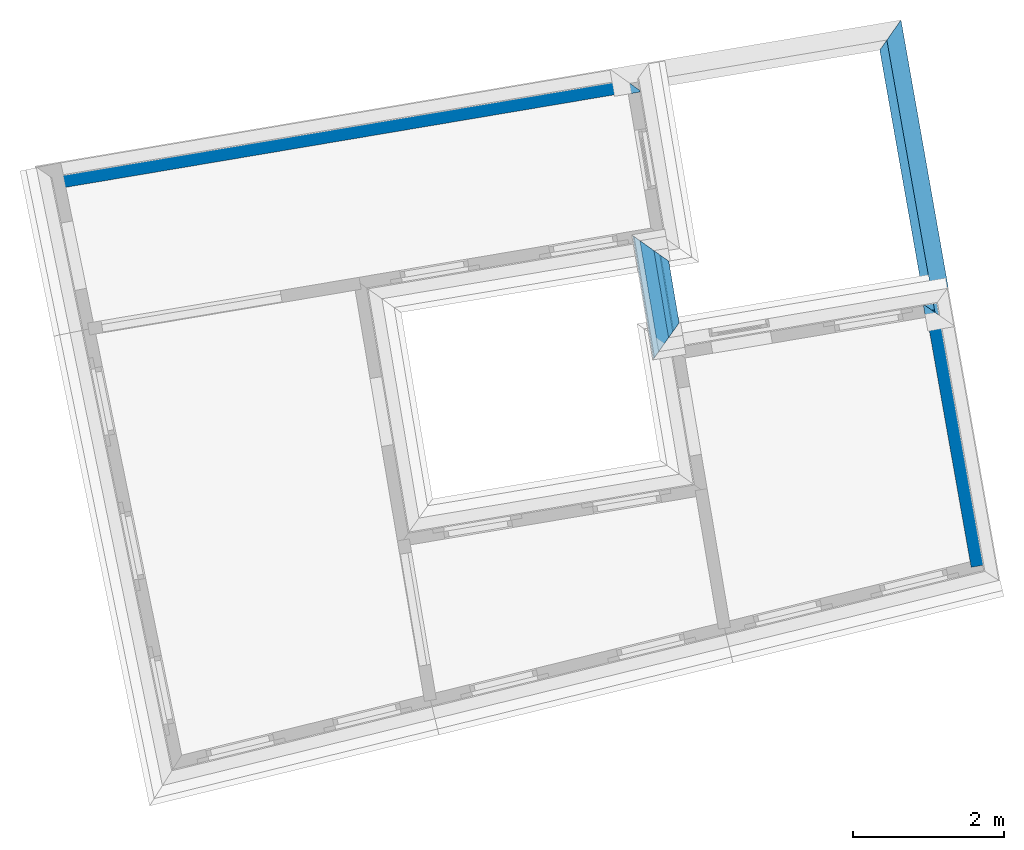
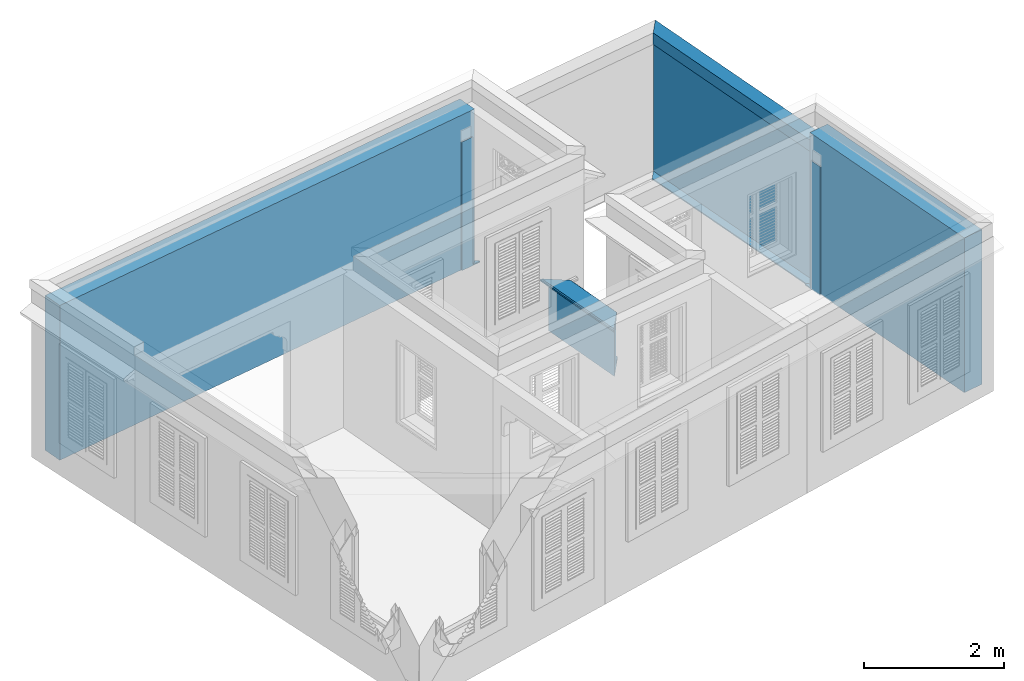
# One storey, part 8 of 12: 8 walls.
"""IFC4 building model written with IfcOpenShell, lengths in metres."""

import ifcopenshell
import ifcopenshell.guid

model = None  # the IFC model being written
_history = None  # IfcOwnerHistory: only IFC2X3 demands one
_inside = {}  # id of a spatial element -> (the spatial element, [elements in it])
_under = {}  # id of a project, library or spatial element -> (it, [spatial elements below it])
_declared = {}  # id of a project -> (the project, [libraries it declares])
_typed = {}  # id of a type object -> (the type object, [elements of that type])
_made_of = {}  # id of a material, layer set ... -> (it, [elements and type objects made of it])


def new_model(schema):
    """Start an empty IFC model of exactly this schema.

    Asked for "IFC4X3", IfcOpenShell would pick the latest addendum, in which some entities
    have other attributes; the version numbers below select the first issue.
    IFC2X3 requires an IfcOwnerHistory on every rooted entity: one is made here for all.
    """
    global model, _history
    if schema == "IFC4X3":
        model = ifcopenshell.file(schema_version=(4, 3, 0, 0))
    else:
        model = ifcopenshell.file(schema=schema)
    _inside.clear()
    _under.clear()
    _declared.clear()
    _typed.clear()
    _made_of.clear()
    _history = None
    if model.schema == "IFC2X3":
        org = make("IfcOrganization", Name="unknown")
        user = make(
            "IfcPersonAndOrganization",
            ThePerson=make("IfcPerson", FamilyName="unknown"),
            TheOrganization=org,
        )
        app = make(
            "IfcApplication",
            ApplicationDeveloper=org,
            Version="unknown",
            ApplicationFullName="unknown",
            ApplicationIdentifier="unknown",
        )
        _history = make(
            "IfcOwnerHistory",
            OwningUser=user,
            OwningApplication=app,
            ChangeAction="ADDED",
            CreationDate=0,
        )
    return model


def make(cls, **values):
    """One entity of the class cls with the attributes given. An attribute that is None is left unset."""
    return model.create_entity(
        cls, **{name: value for name, value in values.items() if value is not None}
    )


def rooted(cls, **values):
    """An entity with a GlobalId (a new one), such as an element, a storey or a relation."""
    return make(cls, GlobalId=ifcopenshell.guid.new(), OwnerHistory=_history, **values)


def si_unit(unit_type, name, prefix=None):
    """IfcSIUnit, for example si_unit("LENGTHUNIT", "METRE", prefix="MILLI")."""
    return make("IfcSIUnit", UnitType=unit_type, Prefix=prefix, Name=name)


def assignment(units):
    """IfcUnitAssignment: the units of a project."""
    return None if units is None else make("IfcUnitAssignment", Units=units)


def point(xyz):
    """IfcCartesianPoint."""
    return None if xyz is None else make("IfcCartesianPoint", Coordinates=xyz)


def direction(xyz):
    """IfcDirection."""
    return None if xyz is None else make("IfcDirection", DirectionRatios=xyz)


def frame(location, z_axis=None, x_axis=None):
    """IfcAxis2Placement3D, a coordinate frame: its origin and axes. An axis left out is left unset."""
    return make(
        "IfcAxis2Placement3D",
        Location=point(location),
        Axis=direction(z_axis),
        RefDirection=direction(x_axis),
    )


def origin_with_axes():
    """The frame at (0, 0, 0) with the z axis (0, 0, 1) and the x axis (1, 0, 0) written out."""
    return frame((0.0, 0.0, 0.0), z_axis=(0.0, 0.0, 1.0), x_axis=(1.0, 0.0, 0.0))


def place(relative_to, where):
    """IfcLocalPlacement: puts the frame where relative to a parent placement (None: the world)."""
    return make(
        "IfcLocalPlacement", PlacementRelTo=relative_to, RelativePlacement=where
    )


def context(
    kind, dimensions, precision=None, world=None, true_north=None, identifier=None
):
    """IfcGeometricRepresentationContext, for example the 3D "Model" context."""
    return make(
        "IfcGeometricRepresentationContext",
        ContextIdentifier=identifier,
        ContextType=kind,
        CoordinateSpaceDimension=dimensions,
        Precision=precision,
        WorldCoordinateSystem=world,
        TrueNorth=true_north,
    )


def subcontext(parent, identifier, kind, view, scale=None):
    """IfcGeometricRepresentationSubContext, for example "Body" below "Model"."""
    return make(
        "IfcGeometricRepresentationSubContext",
        ContextIdentifier=identifier,
        ContextType=kind,
        ParentContext=parent,
        TargetScale=scale,
        TargetView=view,
    )


def project(units=None, contexts=None):
    """IfcProject with its units and contexts."""
    return rooted(
        "IfcProject",
        Name="project",
        RepresentationContexts=contexts,
        UnitsInContext=assignment(units),
    )


def spatial(cls, under=None, at=None, **own):
    """A site, building, storey or space (cls), placed at a placement, below another one or the project."""
    s = rooted(cls, ObjectPlacement=at, **own)
    if under is not None:
        _under.setdefault(under.id(), (under, []))[1].append(s)
    return s


def polyline(points):
    """IfcPolyline through the points."""
    return make("IfcPolyline", Points=[point(p) for p in points])


def outline(outer, holes=None, kind="AREA"):
    """IfcArbitraryClosedProfileDef: a profile drawn as a closed curve; with holes, ...WithVoids."""
    if holes is None:
        return make("IfcArbitraryClosedProfileDef", ProfileType=kind, OuterCurve=outer)
    return make(
        "IfcArbitraryProfileDefWithVoids",
        ProfileType=kind,
        OuterCurve=outer,
        InnerCurves=holes,
    )


def extrude(swept, where, along, depth):
    """IfcExtrudedAreaSolid: the profile swept, set in the frame where, extruded along a direction by depth."""
    return make(
        "IfcExtrudedAreaSolid",
        SweptArea=swept,
        Position=where,
        ExtrudedDirection=direction(along),
        Depth=depth,
    )


def clip(a, b, op="DIFFERENCE"):
    """IfcBooleanClippingResult: the solid a cut by the half space b."""
    return make(
        "IfcBooleanClippingResult", Operator=op, FirstOperand=a, SecondOperand=b
    )


def halfspace(plane, agree):
    """IfcHalfSpaceSolid: all space on one side of the plane z = 0 of the frame plane."""
    return make(
        "IfcHalfSpaceSolid",
        BaseSurface=make("IfcPlane", Position=plane),
        AgreementFlag=agree,
    )


def shape(context_of_items, identifier, shape_type, items):
    """IfcShapeRepresentation: the items that make up one representation, for example the "Body"."""
    return make(
        "IfcShapeRepresentation",
        ContextOfItems=context_of_items,
        RepresentationIdentifier=identifier,
        RepresentationType=shape_type,
        Items=items,
    )


def material(Name=None, Category=None):
    """IfcMaterial."""
    return make("IfcMaterial", Name=Name, Category=Category)


def layer(
    of_material, thickness, ventilated=None, Name=None, Category=None, Priority=None
):
    """IfcMaterialLayer: one layer of a wall or slab, of a material (None: an air gap)."""
    return make(
        "IfcMaterialLayer",
        Material=of_material,
        LayerThickness=thickness,
        IsVentilated=ventilated,
        Name=Name,
        Category=Category,
        Priority=Priority,
    )


def layer_set(layers, Name=None):
    """IfcMaterialLayerSet."""
    return make("IfcMaterialLayerSet", MaterialLayers=layers, LayerSetName=Name)


def layer_usage(for_layer_set, set_direction, sense, offset, extent=None):
    """IfcMaterialLayerSetUsage: how a layer set lies in its element."""
    return make(
        "IfcMaterialLayerSetUsage",
        ForLayerSet=for_layer_set,
        LayerSetDirection=set_direction,
        DirectionSense=sense,
        OffsetFromReferenceLine=offset,
        ReferenceExtent=extent,
    )


def material_profile(
    of_material, cross_section, Name=None, Category=None, Priority=None
):
    """IfcMaterialProfile: a cross section and its material."""
    return make(
        "IfcMaterialProfile",
        Name=Name,
        Material=of_material,
        Profile=cross_section,
        Priority=Priority,
        Category=Category,
    )


def profile_set(profiles, Name=None, composite=None):
    """IfcMaterialProfileSet."""
    return make(
        "IfcMaterialProfileSet",
        Name=Name,
        MaterialProfiles=profiles,
        CompositeProfile=composite,
    )


def profile_usage(for_profile_set, cardinal=None, extent=None):
    """IfcMaterialProfileSetUsage: how a profile set lies along its element."""
    return make(
        "IfcMaterialProfileSetUsage",
        ForProfileSet=for_profile_set,
        CardinalPoint=cardinal,
        ReferenceExtent=extent,
    )


def made_of(thing, what):
    """Note that an element or type object is made of a material, layer set ...; save() writes the relation."""
    if what is not None:
        _made_of.setdefault(what.id(), (what, []))[1].append(thing)
    return thing


def type_object(cls, material=None, **own):
    """A type object (cls), such as IfcWallType, which elements share."""
    return made_of(rooted(cls, **own), material)


def element(
    cls,
    number,
    at=None,
    inside=None,
    cuts=None,
    type_object=None,
    material=None,
    context=None,
    identifier="Body",
    shape_type=None,
    held_by="IfcProductDefinitionShape",
    body=None,
    shapes=None,
    **own,
):
    """One element of the class cls, such as IfcWall. Its Tag is "e" and its number.

    at: its placement. inside: the storey or other place that contains it. cuts: it is an
    opening in that element (IfcRelVoidsElement). A single representation is given by context,
    identifier, shape_type and body (its items); several are given by shapes. held_by: the class
    of the entity that holds the representations. save() writes the other relations.
    """
    e = rooted(cls, Tag="e%d" % number, ObjectPlacement=at, **own)
    if body is not None:
        shapes = [shape(context, identifier, shape_type, body)]
    if shapes is not None:
        e.Representation = make(held_by, Representations=shapes)
    if inside is not None:
        _inside.setdefault(inside.id(), (inside, []))[1].append(e)
    if cuts is not None:
        rooted(
            "IfcRelVoidsElement", RelatingBuildingElement=cuts, RelatedOpeningElement=e
        )
    if type_object is not None:
        _typed.setdefault(type_object.id(), (type_object, []))[1].append(e)
    return made_of(e, material)


def aggregate(whole, parts):
    """IfcRelAggregates: a whole, such as a stair, and the parts it consists of."""
    return rooted("IfcRelAggregates", RelatingObject=whole, RelatedObjects=parts)


def save(model, path):
    """Write the relations noted so far, then the file.

    IfcRelAggregates (storeys below a building ...), IfcRelContainedInSpatialStructure (elements
    in a storey), IfcRelDefinesByType, IfcRelAssociatesMaterial and IfcRelDeclares: one each for
    every whole, place, type object, material and project.
    """
    for whole, parts in _under.values():
        aggregate(whole, parts)
    for where, things in _inside.values():
        rooted(
            "IfcRelContainedInSpatialStructure",
            RelatedElements=things,
            RelatingStructure=where,
        )
    for kind, things in _typed.values():
        rooted("IfcRelDefinesByType", RelatedObjects=things, RelatingType=kind)
    for what, things in _made_of.values():
        rooted("IfcRelAssociatesMaterial", RelatedObjects=things, RelatingMaterial=what)
    for by, libraries in _declared.values():
        rooted("IfcRelDeclares", RelatingContext=by, RelatedDefinitions=libraries)
    model.write(path)


model = new_model("IFC4")

# Units and contexts
model_context = context("Model", 3, world=origin_with_axes())
body_context = subcontext(model_context, "Body", "Model", "MODEL_VIEW")
ifc_project = project(units=[si_unit("PLANEANGLEUNIT", "RADIAN"), si_unit("MASSUNIT", "GRAM", prefix="KILO"), si_unit("FORCEUNIT", "NEWTON", prefix="KILO"), si_unit("LENGTHUNIT", "METRE"), si_unit("AREAUNIT", "SQUARE_METRE"), si_unit("VOLUMEUNIT", "CUBIC_METRE")], contexts=[model_context, model_context])

# Site, building, storey
site_placement = place(None, origin_with_axes())
site = spatial("IfcSite", under=ifc_project, at=site_placement, Name="Site plot-6", CompositionType="ELEMENT")
building_placement = place(None, origin_with_axes())
building = spatial("IfcBuilding", under=site, at=building_placement, Name="Building plot-6", CompositionType="ELEMENT")
storey_placement = place(None, frame((0.0, 0.0, 3.6), z_axis=(0.0, 0.0, 1.0), x_axis=(1.0, 0.0, 0.0)))
storey = spatial("IfcBuildingStorey", under=building, at=storey_placement, Name="plot-6 1", CompositionType="ELEMENT", Elevation=3.6)

# Walls
ifc_material = material(Name="Masonry")
ifc_layer = layer(ifc_material, 0.33, ventilated=False)
ifc_layer_set = layer_set([ifc_layer], Name="party_0.08_0.25")
ifc_layer_usage = layer_usage(ifc_layer_set, "AXIS2", "POSITIVE", -0.25)
wall_type_1 = type_object("IfcWallType", Name="party_0.08_0.25", PredefinedType="SOLIDWALL", material=ifc_layer_set)
wall_1_placement = place(storey_placement, frame((1.2030756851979, -1.07296405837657, 0.0), z_axis=(0.0, 0.0, 1.0), x_axis=(-0.174013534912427, 0.984743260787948, 0.0)))
element("IfcWall", 1, at=wall_1_placement, inside=storey, type_object=wall_type_1, material=ifc_layer_usage, Name="party", context=body_context, shape_type="SweptSolid", body=[
    extrude(outline(polyline([(7.59528607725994e-17, 0.08), (-4.02030662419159e-17, -0.25), (3.43461120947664, -0.25), (3.43461120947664, 0.0799999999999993), (7.59528607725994e-17, 0.08)])), origin_with_axes(), (0.0, 0.0, 1.0), 2.7),
])
wall_2_placement = place(storey_placement, frame((-3.34242450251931, 5.27660263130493, 0.0), z_axis=(0.0, 0.0, 1.0), x_axis=(-0.986076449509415, -0.166292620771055, 0.0)))
element("IfcWall", 2, at=wall_2_placement, inside=storey, type_object=wall_type_1, material=ifc_layer_usage, Name="party", context=body_context, shape_type="SweptSolid", body=[
    extrude(outline(polyline([(5.63585119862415e-17, 0.0799999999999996), (1.53080849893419e-17, -0.25), (7.69267766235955, -0.249999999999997), (7.69267766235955, 0.0800000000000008), (5.63585119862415e-17, 0.0799999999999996)])), origin_with_axes(), (0.0, 0.0, 1.0), 2.7),
])
ifc_material_profile_1 = material_profile(None, outline(polyline([(0.25, 0.0), (0.25, 2.245), (0.05, 2.245), (0.05, 0.02), (-0.08, 0.02), (-0.08, 0.0), (0.25, 0.0)])))
ifc_profile_set_1 = profile_set([ifc_material_profile_1])
ifc_profile_usage_1 = profile_usage(ifc_profile_set_1)
wall_type_2 = type_object("IfcWallType", Name="parapet party_0", PredefinedType="PARAPET", material=ifc_profile_set_1)
wall_3_placement = place(storey_placement, frame((1.59015010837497, 2.48325971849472, 0.0), z_axis=(-0.984743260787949, -0.174013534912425, 0.0), x_axis=(0.174013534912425, -0.984743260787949, 0.0)))
element("IfcWall", 3, at=wall_3_placement, inside=storey, type_object=wall_type_2, material=ifc_profile_usage_1, Name="parapet party_0", context=body_context, shape_type="Clipping", body=[
    clip(clip(extrude(outline(polyline([(0.25, 0.0), (0.25, 2.245), (0.05, 2.245), (0.05, 0.02), (-0.08, 0.02), (-0.08, 0.0), (0.25, 0.0)])), origin_with_axes(), (0.0, 0.0, 1.0), 2.1), halfspace(frame((0.0, 0.0, 1.1), z_axis=(-6.12323399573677e-17, 0.0, -1.0), x_axis=(0.0, 1.0, 0.0)), True)), halfspace(frame((0.0, 0.0, 1.0), z_axis=(-0.707106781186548, 0.0, -0.707106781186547), x_axis=(0.0, 1.0, 0.0)), False)),
])
ifc_profile_usage_2 = profile_usage(ifc_profile_set_1)
wall_4_placement = place(storey_placement, frame((-0.192035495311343, 6.8219754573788, 0.0), z_axis=(0.174013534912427, -0.984743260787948, 0.0), x_axis=(0.984743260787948, 0.174013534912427, 0.0)))
element("IfcWall", 4, at=wall_4_placement, inside=storey, type_object=wall_type_2, material=ifc_profile_usage_2, Name="parapet party_0", context=body_context, shape_type="Clipping", body=[
    clip(clip(extrude(outline(polyline([(0.25, 0.0), (0.25, 2.245), (0.05, 2.245), (0.05, 0.02), (-0.08, 0.02), (-0.08, 0.0), (0.25, 0.0)])), origin_with_axes(), (0.0, 0.0, 1.0), 5.58264550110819), halfspace(frame((0.0, 0.0, 4.58264550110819), z_axis=(0.707106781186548, 0.0, -0.707106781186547), x_axis=(0.0, 1.0, 0.0)), True)), halfspace(frame((0.0, 0.0, 1.0), z_axis=(-0.704331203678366, 0.0, -0.709871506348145), x_axis=(0.0, 1.0, 0.0)), False)),
])
ifc_profile_usage_3 = profile_usage(ifc_profile_set_1)
wall_5_placement = place(storey_placement, frame((-3.15950261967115, 4.19191853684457, 0.0), z_axis=(-0.166292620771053, 0.986076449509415, 0.0), x_axis=(-0.986076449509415, -0.166292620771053, 0.0)))
element("IfcWall", 5, at=wall_5_placement, inside=storey, type_object=wall_type_2, material=ifc_profile_usage_3, Name="parapet party_0", context=body_context, shape_type="Clipping", body=[
    clip(clip(extrude(outline(polyline([(0.25, 0.0), (0.25, 2.245), (0.05, 2.245), (0.05, 0.02), (-0.08, 0.02), (-0.08, 0.0), (0.25, 0.0)])), origin_with_axes(), (0.0, 0.0, 1.0), 2.1), halfspace(frame((0.0, 0.0, 1.1), z_axis=(0.707106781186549, 0.0, -0.707106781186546), x_axis=(0.0, 1.0, 0.0)), True)), halfspace(frame((0.0, 0.0, 1.0), z_axis=(3.82856869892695e-16, 0.0, -1.0), x_axis=(0.0, 1.0, 0.0)), False)),
])
ifc_material_profile_2 = material_profile(None, outline(polyline([(0.265, 2.245), (0.265, 2.445), (0.035, 2.445), (0.035, 2.245), (0.265, 2.245)])))
ifc_profile_set_2 = profile_set([ifc_material_profile_2])
ifc_profile_usage_4 = profile_usage(ifc_profile_set_2)
wall_type_3 = type_object("IfcWallType", Name="parapet party_1", PredefinedType="PARAPET", material=ifc_profile_set_2)
wall_6_placement = place(storey_placement, frame((-0.192035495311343, 6.8219754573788, 0.0), z_axis=(0.174013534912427, -0.984743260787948, 0.0), x_axis=(0.984743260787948, 0.174013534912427, 0.0)))
element("IfcWall", 6, at=wall_6_placement, inside=storey, type_object=wall_type_3, material=ifc_profile_usage_4, Name="parapet party_1", context=body_context, shape_type="Clipping", body=[
    clip(clip(extrude(outline(polyline([(0.265, 2.245), (0.265, 2.445), (0.035, 2.445), (0.035, 2.245), (0.265, 2.245)])), origin_with_axes(), (0.0, 0.0, 1.0), 5.58264550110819), halfspace(frame((0.0, 0.0, 4.58264550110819), z_axis=(0.707106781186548, 0.0, -0.707106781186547), x_axis=(0.0, 1.0, 0.0)), True)), halfspace(frame((0.0, 0.0, 1.0), z_axis=(-0.704331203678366, 0.0, -0.709871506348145), x_axis=(0.0, 1.0, 0.0)), False)),
])
ifc_material_profile_3 = material_profile(None, outline(polyline([(0.25, 0.0), (0.25, 0.795), (0.09, 0.795), (0.09, 0.02), (-0.08, 0.02), (-0.08, 0.0), (0.25, 0.0)])))
ifc_profile_set_3 = profile_set([ifc_material_profile_3])
ifc_profile_usage_5 = profile_usage(ifc_profile_set_3)
wall_type_4 = type_object("IfcWallType", Name="parapet internal_0", PredefinedType="PARAPET", material=ifc_profile_set_3)
wall_7_placement = place(storey_placement, frame((-2.6319333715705, 1.06355596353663, 0.0), z_axis=(-0.16629262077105, 0.986076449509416, 0.0), x_axis=(-0.986076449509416, -0.16629262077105, 0.0)))
element("IfcWall", 7, at=wall_7_placement, inside=storey, type_object=wall_type_4, material=ifc_profile_usage_5, Name="parapet internal_0", context=body_context, shape_type="Clipping", body=[
    clip(clip(extrude(outline(polyline([(0.25, 0.0), (0.25, 0.795), (0.09, 0.795), (0.09, 0.02), (-0.08, 0.02), (-0.08, 0.0), (0.25, 0.0)])), origin_with_axes(), (0.0, 0.0, 1.0), 2.98673624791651), halfspace(frame((0.0, 0.0, 1.98673624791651), z_axis=(0.707106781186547, 0.0, -0.707106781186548), x_axis=(0.0, 1.0, 0.0)), True)), halfspace(frame((0.0, 0.0, 1.0), z_axis=(-0.707106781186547, 0.0, -0.707106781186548), x_axis=(0.0, 1.0, 0.0)), False)),
])
ifc_material_profile_4 = material_profile(None, outline(polyline([(0.265, 0.795), (0.268, 0.807), (0.274, 0.816), (0.283, 0.822), (0.295, 0.825), (0.295, 0.84), (0.305, 0.84), (0.317, 0.842), (0.326, 0.849), (0.333, 0.858), (0.335, 0.87), (0.333, 0.882), (0.326, 0.891), (0.317, 0.898), (0.305, 0.9), (0.035, 0.9), (0.023, 0.898), (0.014, 0.891), (0.007, 0.882), (0.005, 0.87), (0.007, 0.858), (0.014, 0.849), (0.023, 0.842), (0.035, 0.84), (0.045, 0.84), (0.045, 0.825), (0.057, 0.822), (0.066, 0.816), (0.072, 0.807), (0.075, 0.795), (0.265, 0.795)])))
ifc_profile_set_4 = profile_set([ifc_material_profile_4])
ifc_profile_usage_6 = profile_usage(ifc_profile_set_4)
wall_type_5 = type_object("IfcWallType", Name="parapet internal_1", PredefinedType="PARAPET", material=ifc_profile_set_4)
wall_8_placement = place(storey_placement, frame((-2.6319333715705, 1.06355596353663, 0.0), z_axis=(-0.16629262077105, 0.986076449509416, 0.0), x_axis=(-0.986076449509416, -0.16629262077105, 0.0)))
element("IfcWall", 8, at=wall_8_placement, inside=storey, type_object=wall_type_5, material=ifc_profile_usage_6, Name="parapet internal_1", context=body_context, shape_type="Clipping", body=[
    clip(clip(extrude(outline(polyline([(0.265, 0.795), (0.268, 0.807), (0.274, 0.816), (0.283, 0.822), (0.295, 0.825), (0.295, 0.84), (0.305, 0.84), (0.317, 0.842), (0.326, 0.849), (0.333, 0.858), (0.335, 0.87), (0.333, 0.882), (0.326, 0.891), (0.317, 0.898), (0.305, 0.9), (0.035, 0.9), (0.023, 0.898), (0.014, 0.891), (0.007, 0.882), (0.005, 0.87), (0.007, 0.858), (0.014, 0.849), (0.023, 0.842), (0.035, 0.84), (0.045, 0.84), (0.045, 0.825), (0.057, 0.822), (0.066, 0.816), (0.072, 0.807), (0.075, 0.795), (0.265, 0.795)])), origin_with_axes(), (0.0, 0.0, 1.0), 2.98673624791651), halfspace(frame((0.0, 0.0, 1.98673624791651), z_axis=(0.707106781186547, 0.0, -0.707106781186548), x_axis=(0.0, 1.0, 0.0)), True)), halfspace(frame((0.0, 0.0, 1.0), z_axis=(-0.707106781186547, 0.0, -0.707106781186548), x_axis=(0.0, 1.0, 0.0)), False)),
])

save(model, "model.ifc")
